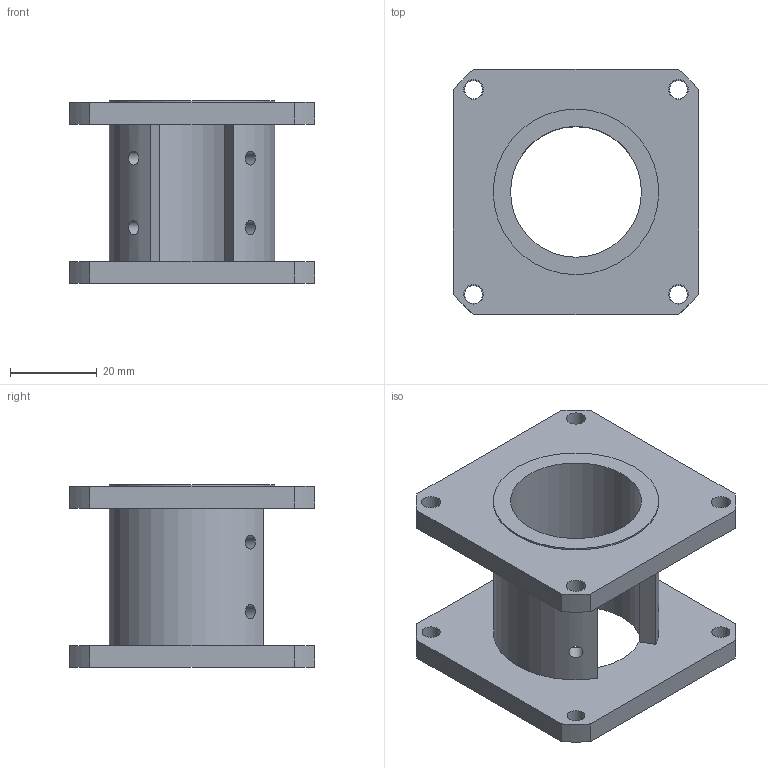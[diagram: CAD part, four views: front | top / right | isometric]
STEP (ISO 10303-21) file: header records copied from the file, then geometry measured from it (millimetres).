
FILE_DESCRIPTION(('STEP AP203'), '1');
FILE_NAME('ÊÀÐØÊ03.00.00.03 - Ïðîñòàâêà', '', ('UNSPECIFIED'), ('UNSPECIFIED'), 'C3D Converter', 'C3D Toolkit', '');
FILE_SCHEMA(('CONFIG_CONTROL_DESIGN'));
Length unit declared in the file: millimetre
Products named in the file (1): КАРШК03.00.00.03
Bounding box: 56.4 x 56.4 x 42 mm (x, y, z)
Volume: 34341 mm3; surface area: 18521 mm2
Topology: 1 solids, 1 shells, 40 faces, 145 edges, 118 vertices
Faces by surface type: cylinder 24, plane 16
Full cylindrical faces by diameter (mm): 3.242 x4, 4.134 x4, 4.5 x4, 30.1 x1, 38.1 x2
Entity records: 4427 total; most frequent: CARTESIAN_POINT 3034, DIRECTION 270, ORIENTED_EDGE 180, AXIS2_PLACEMENT_3D 115, EDGE_CURVE 90, EDGE_LOOP 86, CIRCLE 74, VERTEX_POINT 70
